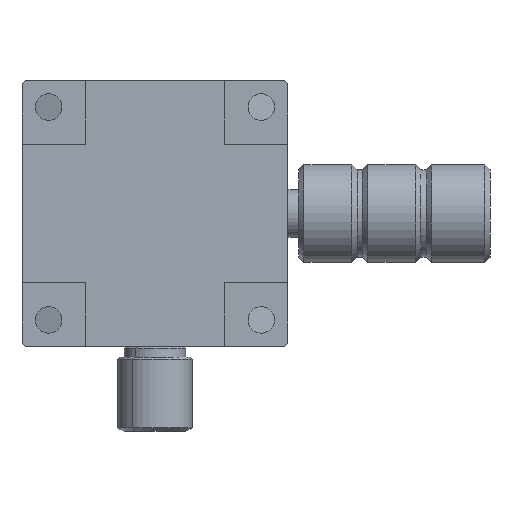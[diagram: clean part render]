
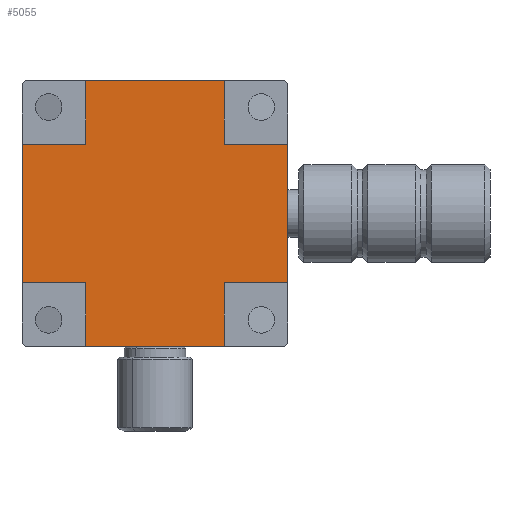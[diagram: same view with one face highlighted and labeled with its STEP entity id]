
A CAD part, front view. The second image highlights one B-rep face of the part: STEP entity #5055.
In plain terms, the highlighted planar face has unit normal (0, -1, 0).
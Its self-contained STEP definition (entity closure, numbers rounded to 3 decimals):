
#114 = DIRECTION ( 'NONE',  ( 0., 0., 1. ) ) ;
#175 = CARTESIAN_POINT ( 'NONE',  ( 0., 0., 0. ) ) ;
#211 = LINE ( 'NONE', #1804, #2229 ) ;
#272 = PLANE ( 'NONE',  #3817 ) ;
#302 = VERTEX_POINT ( 'NONE', #1938 ) ;
#440 = ORIENTED_EDGE ( 'NONE', *, *, #3496, .F. ) ;
#448 = CARTESIAN_POINT ( 'NONE',  ( 12.5, 0., -12.5 ) ) ;
#462 = ORIENTED_EDGE ( 'NONE', *, *, #567, .F. ) ;
#567 = EDGE_CURVE ( 'NONE', #4586, #1308, #4519, .T. ) ;
#574 = CARTESIAN_POINT ( 'NONE',  ( -12.5, 0., 6.5 ) ) ;
#577 = LINE ( 'NONE', #1847, #1224 ) ;
#613 = CARTESIAN_POINT ( 'NONE',  ( 6.5, 0., 6.5 ) ) ;
#651 = DIRECTION ( 'NONE',  ( 0., 0., -1. ) ) ;
#661 = CARTESIAN_POINT ( 'NONE',  ( 12.5, 0., -6.5 ) ) ;
#734 = CARTESIAN_POINT ( 'NONE',  ( 12.5, 0., 6.5 ) ) ;
#784 = VECTOR ( 'NONE', #2110, 1000. ) ;
#806 = CARTESIAN_POINT ( 'NONE',  ( -12.5, 0., -6.5 ) ) ;
#808 = LINE ( 'NONE', #2011, #4466 ) ;
#912 = ORIENTED_EDGE ( 'NONE', *, *, #4103, .F. ) ;
#1095 = LINE ( 'NONE', #2318, #3892 ) ;
#1096 = EDGE_CURVE ( 'NONE', #4964, #302, #4823, .T. ) ;
#1146 = CARTESIAN_POINT ( 'NONE',  ( -12.5, 0., -12.5 ) ) ;
#1224 = VECTOR ( 'NONE', #651, 1000. ) ;
#1261 = VERTEX_POINT ( 'NONE', #613 ) ;
#1268 = LINE ( 'NONE', #4594, #784 ) ;
#1287 = ORIENTED_EDGE ( 'NONE', *, *, #4309, .F. ) ;
#1308 = VERTEX_POINT ( 'NONE', #661 ) ;
#1336 = LINE ( 'NONE', #2046, #4661 ) ;
#1394 = CARTESIAN_POINT ( 'NONE',  ( 12.5, 0., 6.5 ) ) ;
#1453 = DIRECTION ( 'NONE',  ( 0., 0., 1. ) ) ;
#1464 = DIRECTION ( 'NONE',  ( 1., 0., 0. ) ) ;
#1592 = DIRECTION ( 'NONE',  ( 1., 0., 0. ) ) ;
#1688 = ORIENTED_EDGE ( 'NONE', *, *, #2131, .F. ) ;
#1804 = CARTESIAN_POINT ( 'NONE',  ( -12.5, 0., -12.5 ) ) ;
#1825 = ORIENTED_EDGE ( 'NONE', *, *, #3981, .F. ) ;
#1843 = VERTEX_POINT ( 'NONE', #4388 ) ;
#1847 = CARTESIAN_POINT ( 'NONE',  ( 6.5, 0., 12.5 ) ) ;
#1852 = VECTOR ( 'NONE', #4171, 1000. ) ;
#1864 = CARTESIAN_POINT ( 'NONE',  ( 6.5, 0., -12.5 ) ) ;
#1938 = CARTESIAN_POINT ( 'NONE',  ( -6.5, 0., -12.5 ) ) ;
#2008 = DIRECTION ( 'NONE',  ( 1., 0., 0. ) ) ;
#2011 = CARTESIAN_POINT ( 'NONE',  ( 12.5, 0., -6.5 ) ) ;
#2036 = EDGE_CURVE ( 'NONE', #4960, #4561, #5132, .T. ) ;
#2046 = CARTESIAN_POINT ( 'NONE',  ( -6.5, 0., -12.5 ) ) ;
#2048 = ORIENTED_EDGE ( 'NONE', *, *, #4599, .F. ) ;
#2110 = DIRECTION ( 'NONE',  ( 0., 0., 1. ) ) ;
#2131 = EDGE_CURVE ( 'NONE', #3945, #4964, #3905, .T. ) ;
#2229 = VECTOR ( 'NONE', #1453, 1000. ) ;
#2318 = CARTESIAN_POINT ( 'NONE',  ( -12.5, 0., 12.5 ) ) ;
#2461 = ORIENTED_EDGE ( 'NONE', *, *, #2944, .F. ) ;
#2868 = VERTEX_POINT ( 'NONE', #574 ) ;
#2873 = ORIENTED_EDGE ( 'NONE', *, *, #3218, .F. ) ;
#2915 = CARTESIAN_POINT ( 'NONE',  ( -6.5, 0., -6.5 ) ) ;
#2933 = LINE ( 'NONE', #4465, #3869 ) ;
#2943 = ORIENTED_EDGE ( 'NONE', *, *, #1096, .F. ) ;
#2944 = EDGE_CURVE ( 'NONE', #4959, #1843, #1095, .T. ) ;
#3013 = ORIENTED_EDGE ( 'NONE', *, *, #4507, .F. ) ;
#3168 = LINE ( 'NONE', #734, #3702 ) ;
#3187 = EDGE_LOOP ( 'NONE', ( #2873, #2943, #1688, #1825, #462, #1287, #2048, #2461, #3013, #440, #912, #4691 ) ) ;
#3218 = EDGE_CURVE ( 'NONE', #302, #4960, #1336, .T. ) ;
#3337 = DIRECTION ( 'NONE',  ( -1., 0., 0. ) ) ;
#3350 = CARTESIAN_POINT ( 'NONE',  ( 6.5, 0., -12.5 ) ) ;
#3399 = VECTOR ( 'NONE', #3503, 1000. ) ;
#3496 = EDGE_CURVE ( 'NONE', #2868, #3621, #2933, .T. ) ;
#3503 = DIRECTION ( 'NONE',  ( 0., 0., -1. ) ) ;
#3621 = VERTEX_POINT ( 'NONE', #3768 ) ;
#3702 = VECTOR ( 'NONE', #2008, 1000. ) ;
#3768 = CARTESIAN_POINT ( 'NONE',  ( -6.5, 0., 6.5 ) ) ;
#3817 = AXIS2_PLACEMENT_3D ( 'NONE', #175, #4268, #1464 ) ;
#3869 = VECTOR ( 'NONE', #1592, 1000. ) ;
#3892 = VECTOR ( 'NONE', #5195, 1000. ) ;
#3905 = LINE ( 'NONE', #1864, #3399 ) ;
#3945 = VERTEX_POINT ( 'NONE', #5258 ) ;
#3981 = EDGE_CURVE ( 'NONE', #1308, #3945, #808, .T. ) ;
#3988 = DIRECTION ( 'NONE',  ( -1., 0., 0. ) ) ;
#4103 = EDGE_CURVE ( 'NONE', #4561, #2868, #211, .T. ) ;
#4158 = CARTESIAN_POINT ( 'NONE',  ( -6.5, 0., 12.5 ) ) ;
#4171 = DIRECTION ( 'NONE',  ( 0., 0., -1. ) ) ;
#4268 = DIRECTION ( 'NONE',  ( 0., 1., 0. ) ) ;
#4276 = CARTESIAN_POINT ( 'NONE',  ( -12.5, 0., -6.5 ) ) ;
#4309 = EDGE_CURVE ( 'NONE', #1261, #4586, #3168, .T. ) ;
#4388 = CARTESIAN_POINT ( 'NONE',  ( 6.5, 0., 12.5 ) ) ;
#4435 = VECTOR ( 'NONE', #3988, 1000. ) ;
#4465 = CARTESIAN_POINT ( 'NONE',  ( -12.5, 0., 6.5 ) ) ;
#4466 = VECTOR ( 'NONE', #3337, 1000. ) ;
#4507 = EDGE_CURVE ( 'NONE', #3621, #4959, #1268, .T. ) ;
#4519 = LINE ( 'NONE', #448, #1852 ) ;
#4561 = VERTEX_POINT ( 'NONE', #4276 ) ;
#4586 = VERTEX_POINT ( 'NONE', #1394 ) ;
#4594 = CARTESIAN_POINT ( 'NONE',  ( -6.5, 0., 12.5 ) ) ;
#4599 = EDGE_CURVE ( 'NONE', #1843, #1261, #577, .T. ) ;
#4661 = VECTOR ( 'NONE', #114, 1000. ) ;
#4685 = VECTOR ( 'NONE', #5170, 1000. ) ;
#4691 = ORIENTED_EDGE ( 'NONE', *, *, #2036, .F. ) ;
#4823 = LINE ( 'NONE', #1146, #4685 ) ;
#4959 = VERTEX_POINT ( 'NONE', #4158 ) ;
#4960 = VERTEX_POINT ( 'NONE', #2915 ) ;
#4964 = VERTEX_POINT ( 'NONE', #3350 ) ;
#5055 = ADVANCED_FACE ( 'NONE', ( #5138 ), #272, .F. ) ;
#5132 = LINE ( 'NONE', #806, #4435 ) ;
#5138 = FACE_OUTER_BOUND ( 'NONE', #3187, .T. ) ;
#5170 = DIRECTION ( 'NONE',  ( -1., 0., 0. ) ) ;
#5195 = DIRECTION ( 'NONE',  ( 1., 0., 0. ) ) ;
#5258 = CARTESIAN_POINT ( 'NONE',  ( 6.5, 0., -6.5 ) ) ;
